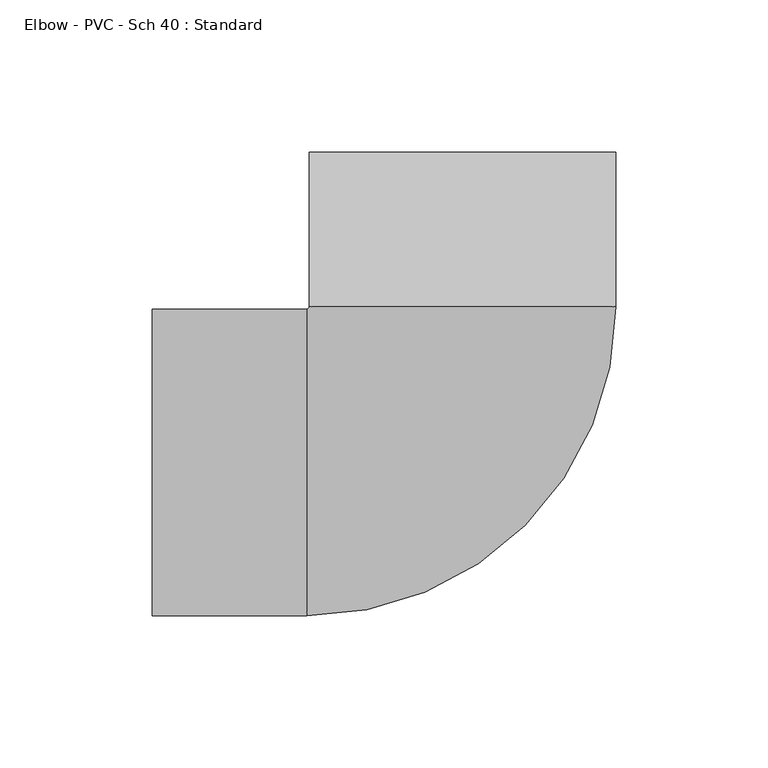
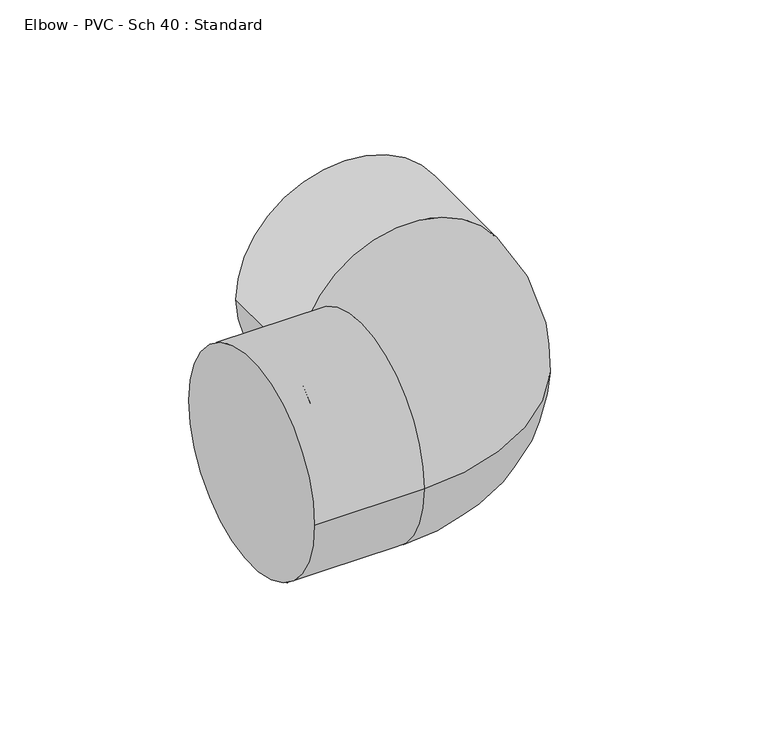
"""IFC4 building model written with IfcOpenShell, lengths in millimetres: pipe fitting geometry, Elbow - PVC - Sch 40 : Standard."""

import ifcopenshell
import ifcopenshell.guid

model = None  # the IFC model being written
_history = None  # IfcOwnerHistory: only IFC2X3 demands one
_inside = {}  # id of a spatial element -> (the spatial element, [elements in it])
_under = {}  # id of a project, library or spatial element -> (it, [spatial elements below it])
_declared = {}  # id of a project -> (the project, [libraries it declares])
_typed = {}  # id of a type object -> (the type object, [elements of that type])
_made_of = {}  # id of a material, layer set ... -> (it, [elements and type objects made of it])


def new_model(schema):
    """Start an empty IFC model of exactly this schema.

    Asked for "IFC4X3", IfcOpenShell would pick the latest addendum, in which some entities
    have other attributes; the version numbers below select the first issue.
    IFC2X3 requires an IfcOwnerHistory on every rooted entity: one is made here for all.
    """
    global model, _history
    if schema == "IFC4X3":
        model = ifcopenshell.file(schema_version=(4, 3, 0, 0))
    else:
        model = ifcopenshell.file(schema=schema)
    _inside.clear()
    _under.clear()
    _declared.clear()
    _typed.clear()
    _made_of.clear()
    _history = None
    if model.schema == "IFC2X3":
        org = make("IfcOrganization", Name="unknown")
        user = make(
            "IfcPersonAndOrganization",
            ThePerson=make("IfcPerson", FamilyName="unknown"),
            TheOrganization=org,
        )
        app = make(
            "IfcApplication",
            ApplicationDeveloper=org,
            Version="unknown",
            ApplicationFullName="unknown",
            ApplicationIdentifier="unknown",
        )
        _history = make(
            "IfcOwnerHistory",
            OwningUser=user,
            OwningApplication=app,
            ChangeAction="ADDED",
            CreationDate=0,
        )
    return model


def make(cls, **values):
    """One entity of the class cls with the attributes given. An attribute that is None is left unset."""
    return model.create_entity(
        cls, **{name: value for name, value in values.items() if value is not None}
    )


def rooted(cls, **values):
    """An entity with a GlobalId (a new one), such as an element, a storey or a relation."""
    return make(cls, GlobalId=ifcopenshell.guid.new(), OwnerHistory=_history, **values)


def si_unit(unit_type, name, prefix=None):
    """IfcSIUnit, for example si_unit("LENGTHUNIT", "METRE", prefix="MILLI")."""
    return make("IfcSIUnit", UnitType=unit_type, Prefix=prefix, Name=name)


def assignment(units):
    """IfcUnitAssignment: the units of a project."""
    return None if units is None else make("IfcUnitAssignment", Units=units)


def point(xyz):
    """IfcCartesianPoint."""
    return None if xyz is None else make("IfcCartesianPoint", Coordinates=xyz)


def direction(xyz):
    """IfcDirection."""
    return None if xyz is None else make("IfcDirection", DirectionRatios=xyz)


def frame(location, z_axis=None, x_axis=None):
    """IfcAxis2Placement3D, a coordinate frame: its origin and axes. An axis left out is left unset."""
    return make(
        "IfcAxis2Placement3D",
        Location=point(location),
        Axis=direction(z_axis),
        RefDirection=direction(x_axis),
    )


def origin():
    """The frame at (0, 0, 0) with its axes left unset."""
    return frame((0.0, 0.0, 0.0))


def place(relative_to, where):
    """IfcLocalPlacement: puts the frame where relative to a parent placement (None: the world)."""
    return make(
        "IfcLocalPlacement", PlacementRelTo=relative_to, RelativePlacement=where
    )


def context(
    kind, dimensions, precision=None, world=None, true_north=None, identifier=None
):
    """IfcGeometricRepresentationContext, for example the 3D "Model" context."""
    return make(
        "IfcGeometricRepresentationContext",
        ContextIdentifier=identifier,
        ContextType=kind,
        CoordinateSpaceDimension=dimensions,
        Precision=precision,
        WorldCoordinateSystem=world,
        TrueNorth=true_north,
    )


def project(units=None, contexts=None):
    """IfcProject with its units and contexts."""
    return rooted(
        "IfcProject",
        Name="project",
        RepresentationContexts=contexts,
        UnitsInContext=assignment(units),
    )


def spatial(cls, under=None, at=None, **own):
    """A site, building, storey or space (cls), placed at a placement, below another one or the project."""
    s = rooted(cls, ObjectPlacement=at, **own)
    if under is not None:
        _under.setdefault(under.id(), (under, []))[1].append(s)
    return s


def circle_curve(where, radius):
    """IfcCircle in the frame where."""
    return make("IfcCircle", Position=where, Radius=radius)


def ellipse_curve(where, semi_axis1, semi_axis2):
    """IfcEllipse in the frame where."""
    return make(
        "IfcEllipse", Position=where, SemiAxis1=semi_axis1, SemiAxis2=semi_axis2
    )


def trimmed(basis, trim1, trim2, sense, master):
    """IfcTrimmedCurve: the piece of a basis curve between two trims."""
    return make(
        "IfcTrimmedCurve",
        BasisCurve=basis,
        Trim1=trim1,
        Trim2=trim2,
        SenseAgreement=sense,
        MasterRepresentation=master,
    )


def shape(context_of_items, identifier, shape_type, items):
    """IfcShapeRepresentation: the items that make up one representation, for example the "Body"."""
    return make(
        "IfcShapeRepresentation",
        ContextOfItems=context_of_items,
        RepresentationIdentifier=identifier,
        RepresentationType=shape_type,
        Items=items,
    )


def source(mapping_origin, context_of_items, identifier, shape_type, items):
    """IfcRepresentationMap: a shape defined once, which mapped items show again and again."""
    return make(
        "IfcRepresentationMap",
        MappingOrigin=mapping_origin,
        MappedRepresentation=shape(context_of_items, identifier, shape_type, items),
    )


def transform(
    local_origin,
    x_axis=None,
    y_axis=None,
    z_axis=None,
    scale=None,
    scale2=None,
    scale3=None,
    uniform=True,
):
    """IfcCartesianTransformationOperator3D, or its non-uniform kind. x_axis, y_axis, z_axis: its Axis1, 2, 3."""
    if uniform:
        return make(
            "IfcCartesianTransformationOperator3D",
            Axis1=direction(x_axis),
            Axis2=direction(y_axis),
            LocalOrigin=point(local_origin),
            Scale=scale,
            Axis3=direction(z_axis),
        )
    return make(
        "IfcCartesianTransformationOperator3DnonUniform",
        Axis1=direction(x_axis),
        Axis2=direction(y_axis),
        LocalOrigin=point(local_origin),
        Scale=scale,
        Axis3=direction(z_axis),
        Scale2=scale2,
        Scale3=scale3,
    )


def mapped(mapping_source, mapping_target):
    """IfcMappedItem: shows the shape of a source again, moved by a transform."""
    return make(
        "IfcMappedItem", MappingSource=mapping_source, MappingTarget=mapping_target
    )


def made_of(thing, what):
    """Note that an element or type object is made of a material, layer set ...; save() writes the relation."""
    if what is not None:
        _made_of.setdefault(what.id(), (what, []))[1].append(thing)
    return thing


def element(
    cls,
    number,
    at=None,
    inside=None,
    cuts=None,
    type_object=None,
    material=None,
    context=None,
    identifier="Body",
    shape_type=None,
    held_by="IfcProductDefinitionShape",
    body=None,
    shapes=None,
    **own,
):
    """One element of the class cls, such as IfcWall. Its Tag is "e" and its number.

    at: its placement. inside: the storey or other place that contains it. cuts: it is an
    opening in that element (IfcRelVoidsElement). A single representation is given by context,
    identifier, shape_type and body (its items); several are given by shapes. held_by: the class
    of the entity that holds the representations. save() writes the other relations.
    """
    e = rooted(cls, Tag="e%d" % number, ObjectPlacement=at, **own)
    if body is not None:
        shapes = [shape(context, identifier, shape_type, body)]
    if shapes is not None:
        e.Representation = make(held_by, Representations=shapes)
    if inside is not None:
        _inside.setdefault(inside.id(), (inside, []))[1].append(e)
    if cuts is not None:
        rooted(
            "IfcRelVoidsElement", RelatingBuildingElement=cuts, RelatedOpeningElement=e
        )
    if type_object is not None:
        _typed.setdefault(type_object.id(), (type_object, []))[1].append(e)
    return made_of(e, material)


def aggregate(whole, parts):
    """IfcRelAggregates: a whole, such as a stair, and the parts it consists of."""
    return rooted("IfcRelAggregates", RelatingObject=whole, RelatedObjects=parts)


def save(model, path):
    """Write the relations noted so far, then the file.

    IfcRelAggregates (storeys below a building ...), IfcRelContainedInSpatialStructure (elements
    in a storey), IfcRelDefinesByType, IfcRelAssociatesMaterial and IfcRelDeclares: one each for
    every whole, place, type object, material and project.
    """
    for whole, parts in _under.values():
        aggregate(whole, parts)
    for where, things in _inside.values():
        rooted(
            "IfcRelContainedInSpatialStructure",
            RelatedElements=things,
            RelatingStructure=where,
        )
    for kind, things in _typed.values():
        rooted("IfcRelDefinesByType", RelatedObjects=things, RelatingType=kind)
    for what, things in _made_of.values():
        rooted("IfcRelAssociatesMaterial", RelatedObjects=things, RelatingMaterial=what)
    for by, libraries in _declared.values():
        rooted("IfcRelDeclares", RelatingContext=by, RelatedDefinitions=libraries)
    model.write(path)


def plane_surface(at):
    """IfcPlane: the flat surface through the origin of the frame at, square to its z axis."""
    return make("IfcPlane", Position=at)


def cylinder_surface(at, radius):
    """IfcCylindricalSurface: all points at the distance radius from the z axis of the frame at."""
    return make("IfcCylindricalSurface", Position=at, Radius=radius)


def revolved_surface(curve, axis_point, axis_direction):
    """IfcSurfaceOfRevolution: the curve turned about the line through axis_point along axis_direction."""
    return make(
        "IfcSurfaceOfRevolution",
        SweptCurve=make("IfcArbitraryOpenProfileDef", ProfileType="CURVE", Curve=curve),
        AxisPosition=make("IfcAxis1Placement", Location=point(axis_point), Axis=direction(axis_direction)),
    )


def advanced_brep(points, edges, surfaces, faces):
    """IfcAdvancedBrep: a solid bounded by faces that lie on surfaces and meet in shared edges.

    An edge is (start, end): straight between two places in points (the first is 0);
    or (start, end, curve); or (start, end, curve, False) where it runs against its curve.
    A face is (place in surfaces, loops), or (place, loops, False) where it looks against
    its surface's normal. A loop lists edges by number (the first is 1), with a minus sign
    where the edge is run from its end to its start. The first loop is the outer one.
    """
    corners = [point(p) for p in points]
    vertices = [make("IfcVertexPoint", VertexGeometry=c) for c in corners]
    made = []
    for start, end, *more in edges:
        made.append(
            make(
                "IfcEdgeCurve",
                EdgeStart=vertices[start],
                EdgeEnd=vertices[end],
                EdgeGeometry=more[0] if more else make("IfcPolyline", Points=[corners[start], corners[end]]),
                SameSense=more[1] if len(more) > 1 else True,
            )
        )
    hull = []
    for where, loops, *sense in faces:
        bounds = []
        for j, loop in enumerate(loops):
            ring = [make("IfcOrientedEdge", EdgeElement=made[abs(k) - 1], Orientation=k > 0) for k in loop]
            bounds.append(
                make(
                    "IfcFaceOuterBound" if j == 0 else "IfcFaceBound",
                    Bound=make("IfcEdgeLoop", EdgeList=ring),
                    Orientation=True,
                )
            )
        hull.append(make("IfcAdvancedFace", Bounds=bounds, FaceSurface=surfaces[where], SameSense=sense[0] if sense else True))
    return make("IfcAdvancedBrep", Outer=make("IfcClosedShell", CfsFaces=hull))


def elbow_pvc_sch_40_standard_3ccf74f3(model_context):
    return source(origin(), model_context, "Body", "AdvancedBrep", [
        advanced_brep(
        [(-102.00005, -50.4063, 0.0), (-102.00005, 50.4063, 0.0), (-51.20005, -50.4063, 0.0), (-51.20005, 50.4063, 0.0), (-50.4063, 51.20005, 0.0), (50.4063, 51.20005, 0.0), (50.4063, 102.00005, 0.0), (-50.4063, 102.00005, 0.0)],
        [
            (0, 1, circle_curve(frame((-102.00005, 0.0, 0.0), z_axis=(-1.0, 0.0, 0.0), x_axis=(0.0, 1.0, 0.0)), 50.4063)),
            (1, 0, circle_curve(frame((-102.00005, 0.0, 0.0), z_axis=(-1.0, 0.0, 0.0), x_axis=(0.0, 1.0, 0.0)), 50.4063)),
            (0, 2),
            (2, 3, circle_curve(frame((-51.20005, 0.0, 0.0), z_axis=(-1.0, 0.0, 0.0), x_axis=(0.0, 1.0, 0.0)), 50.4063)),
            (3, 1),
            (3, 2, circle_curve(frame((-51.20005, 0.0, 0.0), z_axis=(-1.0, 0.0, 0.0), x_axis=(0.0, 1.0, 0.0)), 50.4063)),
            (4, 3, circle_curve(frame((-51.20005, 51.20005, 0.0), z_axis=(0.0, 0.0, -1.0), x_axis=(0.0, -1.0, 0.0)), 0.79375)),
            (2, 5, circle_curve(frame((-51.20005, 51.20005, 0.0), z_axis=(0.0, 0.0, 1.0), x_axis=(0.0, -1.0, 0.0)), 101.60635)),
            (5, 4, circle_curve(frame((0.0, 51.20005, 0.0), z_axis=(0.0, -1.0, 0.0), x_axis=(-1.0, 0.0, 0.0)), 50.4063)),
            (4, 5, circle_curve(frame((0.0, 51.20005, 0.0), z_axis=(0.0, -1.0, 0.0), x_axis=(-1.0, 0.0, 0.0)), 50.4063)),
            (6, 7, circle_curve(frame((0.0, 102.00005, 0.0), z_axis=(0.0, 1.0, 0.0), x_axis=(-1.0, 0.0, 0.0)), 50.4063)),
            (7, 6, circle_curve(frame((0.0, 102.00005, 0.0), z_axis=(0.0, 1.0, 0.0), x_axis=(-1.0, 0.0, 0.0)), 50.4063)),
            (5, 6),
            (7, 4),
        ],
        [
            plane_surface(frame((-102.00005, 0.0, 0.0), z_axis=(-1.0, 0.0, 0.0), x_axis=(0.0, 0.0, 1.0))),
            cylinder_surface(frame((-102.00005, 0.0, 0.0), z_axis=(-1.0, 0.0, 0.0), x_axis=(0.0, 1.0, 0.0)), 50.4063),
            revolved_surface(trimmed(ellipse_curve(frame((-51.20005, 0.0, 0.0), z_axis=(-1.0, 0.0, 0.0), x_axis=(0.0, 1.0, 0.0)), 50.4063, 50.4063), [point((-51.20005, -50.4063, 0.0))], [point((-51.20005, 50.4063, 0.0))], True, "CARTESIAN"), (-51.20005, 51.20005, 0.0), (0.0, 0.0, 1.0)),
            revolved_surface(trimmed(ellipse_curve(frame((-51.20005, 0.0, 0.0), z_axis=(-1.0, 0.0, 0.0), x_axis=(0.0, 1.0, 0.0)), 50.4063, 50.4063), [point((-51.20005, 50.4063, 0.0))], [point((-51.20005, -50.4063, 0.0))], True, "CARTESIAN"), (-51.20005, 51.20005, 0.0), (0.0, 0.0, 1.0)),
            plane_surface(frame((0.0, 102.00005, 0.0), z_axis=(0.0, 1.0, 0.0), x_axis=(0.0, 0.0, 1.0))),
            cylinder_surface(frame((0.0, 51.20005, 0.0), z_axis=(0.0, -1.0, 0.0), x_axis=(-1.0, 0.0, 0.0)), 50.4063),
        ],
        [
            (0, [[1, 2]]),
            (1, [[-1, 3, 4, 5]]),
            (1, [[-2, -5, 6, -3]]),
            (2, [[7, -4, 8, 9]]),
            (3, [[-8, -6, -7, 10]]),
            (4, [[11, 12]]),
            (5, [[-9, 13, -12, 14]]),
            (5, [[-10, -14, -11, -13]]),
        ],
    ),
    ])


if __name__ == "__main__":
    model = new_model("IFC4")
    model_context = context("Model", 3, world=origin())
    ifc_project = project(units=[si_unit("LENGTHUNIT", "METRE", prefix="MILLI")], contexts=[model_context])
    site = spatial("IfcSite", under=ifc_project)
    building = spatial("IfcBuilding", under=site)
    placement = place(None, origin())
    elbow_pvc_sch_40_standard_shape = elbow_pvc_sch_40_standard_3ccf74f3(model_context)
    element("IfcPipeFitting", 1, ObjectType="Elbow - PVC - Sch 40 : Standard", at=placement, inside=building, context=model_context, shape_type="MappedRepresentation", body=[
        mapped(elbow_pvc_sch_40_standard_shape, transform((0.0, 0.0, 0.0), x_axis=(1.0, 0.0, 0.0), y_axis=(0.0, 1.0, 0.0), z_axis=(0.0, 0.0, 1.0))),
    ])
    save(model, "model.ifc")
